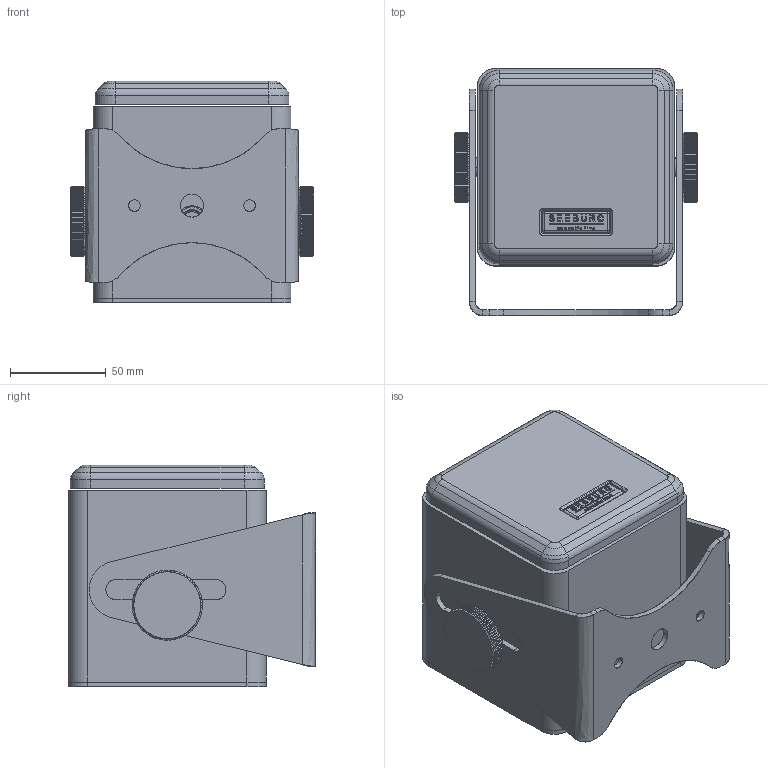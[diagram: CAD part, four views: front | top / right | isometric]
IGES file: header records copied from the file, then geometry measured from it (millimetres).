
Start section: SolidWorks IGES file using analytic representation for surfaces
Global section: file name: C:\Documents and Settings\Administrator\My Documents\Michl\SolidWorks\3d_Dateien_Homepage\New Folder\SEEBURG_i4.IGS; native system: SolidWorks 2009; preprocessor: SolidWorks 2009; author: Administrator; date: 140327.115907; units: millimetre
Bounding box: 127 x 128.72 x 115.5 mm (x, y, z)
Surface area: 181688.4 mm2 (no closed solid volume)
Topology: 0 solids, 0 shells, 1201 faces, 11912 edges, 11908 vertices
Faces by surface type: bspline 791, revolution 410
